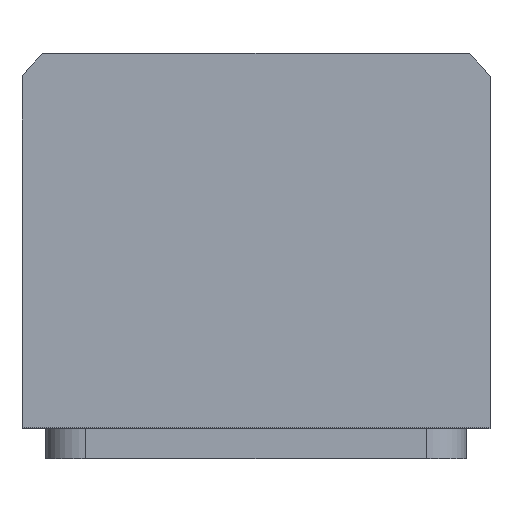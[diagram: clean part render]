
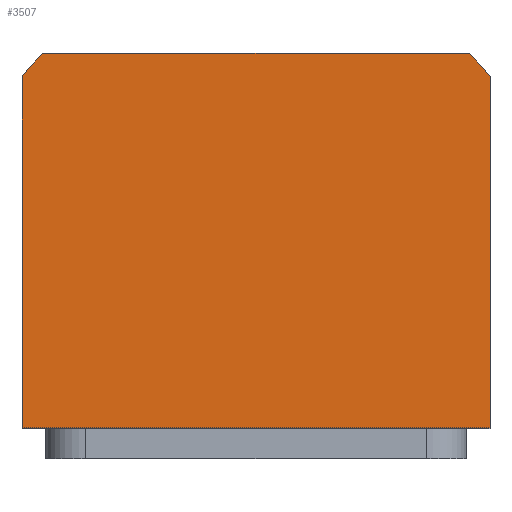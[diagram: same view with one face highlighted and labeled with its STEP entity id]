
A CAD part, top view. The second image highlights one B-rep face of the part: STEP entity #3507.
In plain terms, the highlighted planar face has unit normal (0, 0, 1).
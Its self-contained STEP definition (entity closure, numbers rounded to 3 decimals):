
#2745=FACE_OUTER_BOUND('',#4462,.T.);
#3507=ADVANCED_FACE('',(#2745),#3957,.T.);
#3957=PLANE('',#11927);
#4462=EDGE_LOOP('',(#7054,#7055,#7056,#7057,#7058,#7059));
#4990=LINE('',#14279,#5888);
#5014=LINE('',#14950,#5912);
#5033=LINE('',#15010,#5931);
#5037=LINE('',#15020,#5935);
#5888=VECTOR('',#12347,1.);
#5912=VECTOR('',#12461,1.);
#5931=VECTOR('',#12518,1.);
#5935=VECTOR('',#12530,1.);
#7054=ORIENTED_EDGE('',*,*,#10553,.T.);
#7055=ORIENTED_EDGE('',*,*,#10460,.T.);
#7056=ORIENTED_EDGE('',*,*,#10566,.T.);
#7057=ORIENTED_EDGE('',*,*,#10584,.T.);
#7058=ORIENTED_EDGE('',*,*,#10560,.T.);
#7059=ORIENTED_EDGE('',*,*,#10590,.T.);
#9508=VERTEX_POINT('',#14249);
#9523=VERTEX_POINT('',#14278);
#9605=VERTEX_POINT('',#14946);
#9609=VERTEX_POINT('',#14959);
#9612=VERTEX_POINT('',#14964);
#9616=VERTEX_POINT('',#14976);
#10460=EDGE_CURVE('',#9508,#9523,#4990,.T.);
#10553=EDGE_CURVE('',#9605,#9508,#5014,.T.);
#10560=EDGE_CURVE('',#9609,#9612,#11794,.T.);
#10566=EDGE_CURVE('',#9523,#9616,#11797,.T.);
#10584=EDGE_CURVE('',#9616,#9609,#5033,.T.);
#10590=EDGE_CURVE('',#9612,#9605,#5037,.T.);
#11794=CIRCLE('',#11908,44.5);
#11797=CIRCLE('',#11913,44.5);
#11908=AXIS2_PLACEMENT_3D('',#14965,#12475,#12476);
#11913=AXIS2_PLACEMENT_3D('',#14977,#12488,#12489);
#11927=AXIS2_PLACEMENT_3D('',#15032,#12539,#12540);
#12347=DIRECTION('',(0.,1.,0.));
#12461=DIRECTION('',(1.,0.,0.));
#12475=DIRECTION('',(0.,0.,1.));
#12476=DIRECTION('',(1.,0.,0.));
#12488=DIRECTION('',(0.,0.,1.));
#12489=DIRECTION('',(1.,0.,0.));
#12518=DIRECTION('',(-1.,0.,0.));
#12530=DIRECTION('',(0.,-1.,0.));
#12539=DIRECTION('',(0.,0.,1.));
#12540=DIRECTION('',(-1.,0.,0.));
#14249=CARTESIAN_POINT('',(35.,-25.,52.));
#14278=CARTESIAN_POINT('',(35.,27.482,52.));
#14279=CARTESIAN_POINT('',(35.,27.482,52.));
#14946=CARTESIAN_POINT('',(-35.,-25.,52.));
#14950=CARTESIAN_POINT('',(35.,-25.,52.));
#14959=CARTESIAN_POINT('',(-31.926,31.,52.));
#14964=CARTESIAN_POINT('',(-35.,27.482,52.));
#14965=CARTESIAN_POINT('',(0.,0.,52.));
#14976=CARTESIAN_POINT('',(31.926,31.,52.));
#14977=CARTESIAN_POINT('',(0.,0.,52.));
#15010=CARTESIAN_POINT('',(-31.926,31.,52.));
#15020=CARTESIAN_POINT('',(-35.,-25.,52.));
#15032=CARTESIAN_POINT('',(0.,0.,52.));
